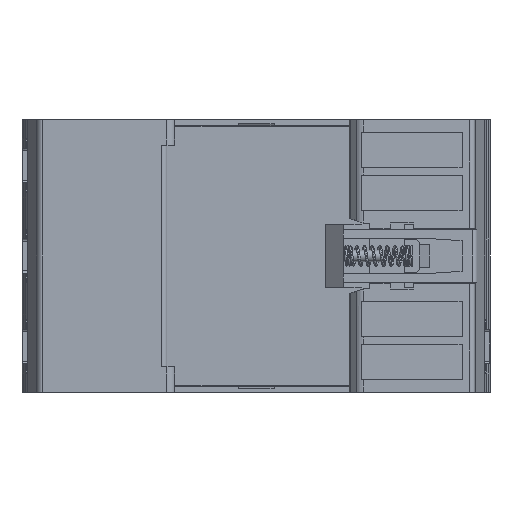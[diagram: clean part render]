
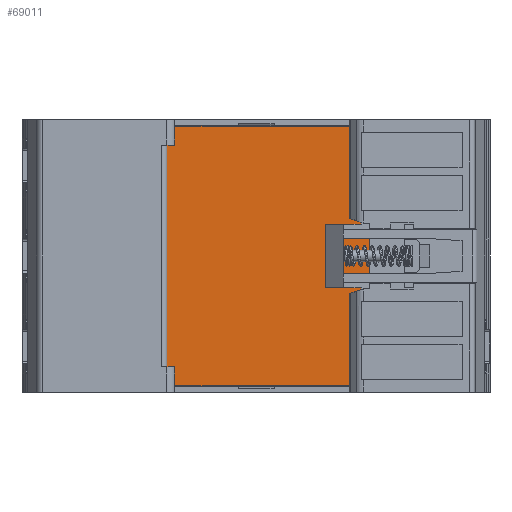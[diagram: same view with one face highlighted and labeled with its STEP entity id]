
A CAD part, front view. The second image highlights one B-rep face of the part: STEP entity #69011.
In plain terms, the highlighted planar face has unit normal (0, -1, 0).
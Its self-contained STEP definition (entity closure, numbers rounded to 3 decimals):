
#11052=DIRECTION('',(0.,0.,1.));
#11053=VECTOR('',#11052,18.1);
#11054=CARTESIAN_POINT('',(63.3,0.,34.2));
#11055=LINE('',#11054,#11053);
#11114=DIRECTION('',(0.,0.,1.));
#11115=VECTOR('',#11114,12.8);
#11116=CARTESIAN_POINT('',(67.3,0.,20.4));
#11117=LINE('',#11116,#11115);
#13301=DIRECTION('',(0.,0.,-1.));
#13302=VECTOR('',#13301,12.5);
#13303=CARTESIAN_POINT('',(62.2,0.,33.05));
#13304=LINE('',#13303,#13302);
#13343=DIRECTION('',(0.,0.,-1.));
#13344=VECTOR('',#13343,18.1);
#13345=CARTESIAN_POINT('',(63.3,0.,19.4));
#13346=LINE('',#13345,#13344);
#13347=DIRECTION('',(0.,0.,1.));
#13348=VECTOR('',#13347,51.);
#13349=CARTESIAN_POINT('',(27.5,0.,1.3));
#13350=LINE('',#13349,#13348);
#13351=DIRECTION('',(1.,0.,0.));
#13352=VECTOR('',#13351,35.8);
#13353=CARTESIAN_POINT('',(27.5,0.,52.3));
#13354=LINE('',#13353,#13352);
#13355=DIRECTION('',(0.949,0.,-0.316));
#13356=VECTOR('',#13355,3.162);
#13357=CARTESIAN_POINT('',(63.3,0.,34.2));
#13358=LINE('',#13357,#13356);
#13359=DIRECTION('',(1.,0.,0.));
#13360=VECTOR('',#13359,1.);
#13361=CARTESIAN_POINT('',(66.3,0.,33.2));
#13362=LINE('',#13361,#13360);
#13363=DIRECTION('',(-0.949,0.,-0.316));
#13364=VECTOR('',#13363,3.162);
#13365=CARTESIAN_POINT('',(66.3,0.,20.4));
#13366=LINE('',#13365,#13364);
#13367=DIRECTION('',(0.,0.,-1.));
#13368=VECTOR('',#13367,12.5);
#13369=CARTESIAN_POINT('',(60.4,0.,33.05));
#13370=LINE('',#13369,#13368);
#13371=DIRECTION('',(1.,0.,0.));
#13372=VECTOR('',#13371,1.8);
#13373=CARTESIAN_POINT('',(60.4,0.,20.55));
#13374=LINE('',#13373,#13372);
#13435=DIRECTION('',(1.,0.,0.));
#13436=VECTOR('',#13435,35.8);
#13437=CARTESIAN_POINT('',(27.5,0.,1.3));
#13438=LINE('',#13437,#13436);
#13551=DIRECTION('',(1.,0.,0.));
#13552=VECTOR('',#13551,1.);
#13553=CARTESIAN_POINT('',(66.3,0.,20.4));
#13554=LINE('',#13553,#13552);
#14563=DIRECTION('',(1.,0.,0.));
#14564=VECTOR('',#14563,1.8);
#14565=CARTESIAN_POINT('',(60.4,0.,33.05));
#14566=LINE('',#14565,#14564);
#43226=CARTESIAN_POINT('',(27.5,0.,52.3));
#43227=VERTEX_POINT('',#43226);
#43228=CARTESIAN_POINT('',(27.5,0.,1.3));
#43229=VERTEX_POINT('',#43228);
#43250=CARTESIAN_POINT('',(63.3,0.,34.2));
#43251=VERTEX_POINT('',#43250);
#43252=CARTESIAN_POINT('',(63.3,0.,52.3));
#43253=VERTEX_POINT('',#43252);
#43259=CARTESIAN_POINT('',(66.3,0.,33.2));
#43260=VERTEX_POINT('',#43259);
#43286=CARTESIAN_POINT('',(67.3,0.,20.4));
#43287=VERTEX_POINT('',#43286);
#43288=CARTESIAN_POINT('',(67.3,0.,33.2));
#43289=VERTEX_POINT('',#43288);
#43400=CARTESIAN_POINT('',(62.2,0.,20.55));
#43402=VERTEX_POINT('',#43400);
#43407=CARTESIAN_POINT('',(62.2,0.,33.05));
#43408=VERTEX_POINT('',#43407);
#43413=CARTESIAN_POINT('',(60.4,0.,20.55));
#43414=VERTEX_POINT('',#43413);
#43429=CARTESIAN_POINT('',(63.3,0.,19.4));
#43430=CARTESIAN_POINT('',(63.3,0.,1.3));
#43431=VERTEX_POINT('',#43429);
#43432=VERTEX_POINT('',#43430);
#43433=CARTESIAN_POINT('',(66.3,0.,20.4));
#43434=VERTEX_POINT('',#43433);
#43435=CARTESIAN_POINT('',(60.4,0.,33.05));
#43436=VERTEX_POINT('',#43435);
#68980=CARTESIAN_POINT('',(45.,0.,0.));
#68981=DIRECTION('',(0.,-1.,0.));
#68982=DIRECTION('',(0.,0.,-1.));
#68983=AXIS2_PLACEMENT_3D('',#68980,#68981,#68982);
#68984=PLANE('',#68983);
#68986=ORIENTED_EDGE('',*,*,#68985,.T.);
#68988=ORIENTED_EDGE('',*,*,#68987,.F.);
#68989=ORIENTED_EDGE('',*,*,#53950,.T.);
#68991=ORIENTED_EDGE('',*,*,#68990,.T.);
#68992=ORIENTED_EDGE('',*,*,#64932,.F.);
#68993=ORIENTED_EDGE('',*,*,#64961,.T.);
#68995=ORIENTED_EDGE('',*,*,#68994,.T.);
#68996=ORIENTED_EDGE('',*,*,#65014,.F.);
#68998=ORIENTED_EDGE('',*,*,#68997,.F.);
#69000=ORIENTED_EDGE('',*,*,#68999,.T.);
#69001=EDGE_LOOP('',(#68986,#68988,#68989,#68991,#68992,#68993,#68995,#68996,
#68998,#69000));
#69002=FACE_OUTER_BOUND('',#69001,.F.);
#69003=ORIENTED_EDGE('',*,*,#68942,.F.);
#69005=ORIENTED_EDGE('',*,*,#69004,.F.);
#69007=ORIENTED_EDGE('',*,*,#69006,.T.);
#69008=ORIENTED_EDGE('',*,*,#68958,.T.);
#69009=EDGE_LOOP('',(#69003,#69005,#69007,#69008));
#69010=FACE_BOUND('',#69009,.F.);
#69011=ADVANCED_FACE('',(#69002,#69010),#68984,.T.);
#53950=EDGE_CURVE('',#43229,#43227,#13350,.T.);
#64932=EDGE_CURVE('',#43251,#43253,#11055,.T.);
#64961=EDGE_CURVE('',#43251,#43260,#13358,.T.);
#65014=EDGE_CURVE('',#43287,#43289,#11117,.T.);
#68942=EDGE_CURVE('',#43408,#43402,#13304,.T.);
#68958=EDGE_CURVE('',#43414,#43402,#13374,.T.);
#68985=EDGE_CURVE('',#43431,#43432,#13346,.T.);
#68987=EDGE_CURVE('',#43229,#43432,#13438,.T.);
#68990=EDGE_CURVE('',#43227,#43253,#13354,.T.);
#68994=EDGE_CURVE('',#43260,#43289,#13362,.T.);
#68997=EDGE_CURVE('',#43434,#43287,#13554,.T.);
#68999=EDGE_CURVE('',#43434,#43431,#13366,.T.);
#69004=EDGE_CURVE('',#43436,#43408,#14566,.T.);
#69006=EDGE_CURVE('',#43436,#43414,#13370,.T.);
